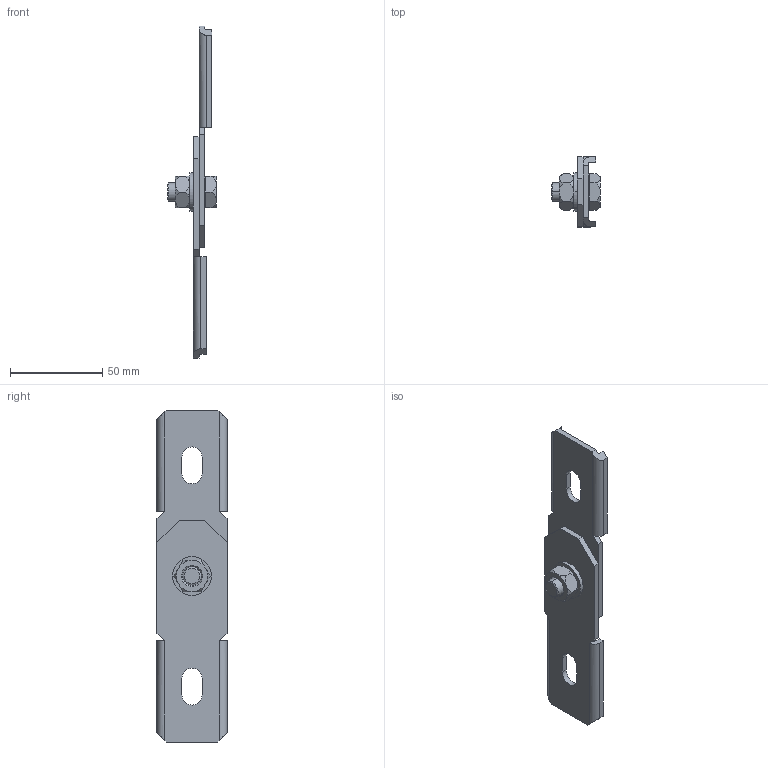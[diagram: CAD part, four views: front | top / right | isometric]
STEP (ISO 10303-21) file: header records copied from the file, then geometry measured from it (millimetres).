
FILE_DESCRIPTION(('Creo Elements/Direct Modeling STEP Export'),'2;1');
FILE_NAME('SLVV.stp','2020-09-16T 8:41:21',(''),(''),'PTC Creo Elements/Direct Modeling STEP processor for AP214 (Solid Model)','PTC Creo Elements/Direct Modeling 19.0C 15-Aug-2015 (C) Parametric Technology GmbH','');
FILE_SCHEMA(('AUTOMOTIVE_DESIGN { 1 0 10303 214 1 1 1 1 }'));
Length unit declared in the file: millimetre
Products named in the file (5): US_10x21F; SLVV-K.002; SES_10x20F; SEM_10F; SLVV_F
Assembly tree (5 placements, depth 2):
  SLVV_F
    SEM_10F
    SES_10x20F
    SLVV-K.002  x2
    US_10x21F
Bounding box: 26.4 x 38 x 180 mm (x, y, z)
Volume: 31308.8 mm3; surface area: 23207.1 mm2
Topology: 5 solids, 5 shells, 116 faces, 278 edges, 174 vertices
Faces by surface type: plane 64, cylinder 30, cone 22
Entity records: 4612 total; most frequent: CARTESIAN_POINT 2612, ORIENTED_EDGE 396, DIRECTION 320, EDGE_CURVE 198, VERTEX_POINT 122, AXIS2_PLACEMENT_3D 110, VECTOR 100, LINE 100
